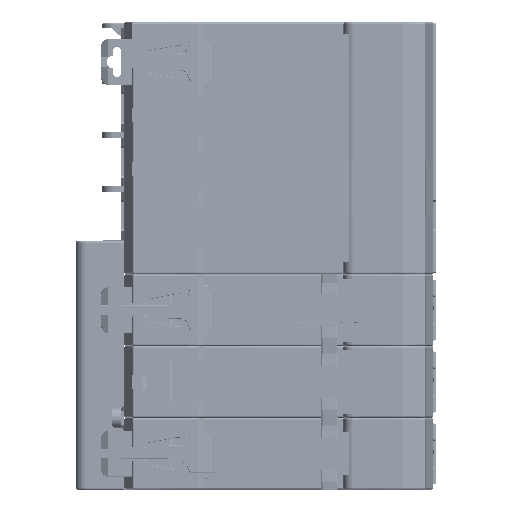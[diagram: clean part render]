
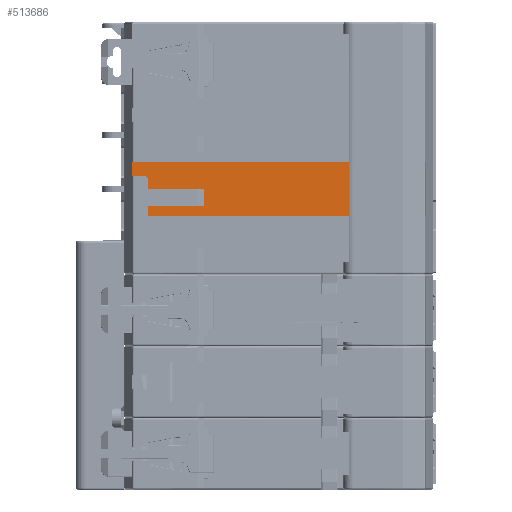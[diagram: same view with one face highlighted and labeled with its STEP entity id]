
A CAD part, front view. The second image highlights one B-rep face of the part: STEP entity #513686.
In plain terms, the highlighted planar face has unit normal (0, -1, 0).
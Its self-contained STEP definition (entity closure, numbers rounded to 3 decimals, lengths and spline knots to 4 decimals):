
#500757=DIRECTION('',(1.,0.,0.));
#500758=VECTOR('',#500757,2.0587);
#500759=CARTESIAN_POINT('',(-1.374,-1.811,
2.6713));
#500760=LINE('',#500759,#500758);
#500834=DIRECTION('',(-1.,0.,0.));
#500835=VECTOR('',#500834,2.1177);
#500836=CARTESIAN_POINT('',(0.6846,-1.811,
3.1988));
#500837=LINE('',#500836,#500835);
#501053=DIRECTION('',(-0.707,0.,
0.707));
#501054=VECTOR('',#501053,0.0557);
#501055=CARTESIAN_POINT('',(-0.7327,-1.811,
2.8346));
#501056=LINE('',#501055,#501054);
#501057=DIRECTION('',(-1.,0.,0.));
#501058=VECTOR('',#501057,0.0984);
#501059=CARTESIAN_POINT('',(-0.772,-1.811,
2.874));
#501060=LINE('',#501059,#501058);
#501061=DIRECTION('',(0.,0.,-1.));
#501062=VECTOR('',#501061,0.0429);
#501063=CARTESIAN_POINT('',(-0.8705,-1.811,
2.874));
#501064=LINE('',#501063,#501062);
#501065=DIRECTION('',(-0.921,0.,
-0.39));
#501066=VECTOR('',#501065,0.0316);
#501067=CARTESIAN_POINT('',(-0.8705,-1.811,
2.8311));
#501068=LINE('',#501067,#501066);
#501069=DIRECTION('',(-0.817,0.,
0.577));
#501070=VECTOR('',#501069,0.1114);
#501071=CARTESIAN_POINT('',(-0.8996,-1.811,
2.8188));
#501072=LINE('',#501071,#501070);
#501073=DIRECTION('',(-1.,0.,0.));
#501074=VECTOR('',#501073,0.0079);
#501075=CARTESIAN_POINT('',(-0.9906,-1.811,
2.8831));
#501076=LINE('',#501075,#501074);
#501077=DIRECTION('',(-0.836,0.,
-0.549));
#501078=VECTOR('',#501077,0.1168);
#501079=CARTESIAN_POINT('',(-0.9984,-1.811,
2.8831));
#501080=LINE('',#501079,#501078);
#501081=DIRECTION('',(-0.818,0.,
0.575));
#501082=VECTOR('',#501081,0.1336);
#501083=CARTESIAN_POINT('',(-1.0961,-1.811,
2.8189));
#501084=LINE('',#501083,#501082);
#501085=DIRECTION('',(0.,0.,1.));
#501086=VECTOR('',#501085,0.3031);
#501087=CARTESIAN_POINT('',(-1.4331,-1.811,
2.8957));
#501088=LINE('',#501087,#501086);
#501089=DIRECTION('',(0.,0.,-1.));
#501090=VECTOR('',#501089,0.5276);
#501091=CARTESIAN_POINT('',(0.6846,-1.811,
3.1988));
#501092=LINE('',#501091,#501090);
#501097=DIRECTION('',(0.,0.,-1.));
#501098=VECTOR('',#501097,0.061);
#501099=CARTESIAN_POINT('',(-0.7327,-1.811,
2.8346));
#501100=LINE('',#501099,#501098);
#501153=DIRECTION('',(-1.,0.,0.));
#501154=VECTOR('',#501153,0.6413);
#501155=CARTESIAN_POINT('',(-0.7327,-1.811,
2.7736));
#501156=LINE('',#501155,#501154);
#501189=DIRECTION('',(0.,0.,-1.));
#501190=VECTOR('',#501189,0.1024);
#501191=CARTESIAN_POINT('',(-1.374,-1.811,
2.7736));
#501192=LINE('',#501191,#501190);
#503934=DIRECTION('',(1.,0.,0.));
#503935=VECTOR('',#503934,0.2277);
#503936=CARTESIAN_POINT('',(-1.4331,-1.811,
2.8957));
#503937=LINE('',#503936,#503935);
#509662=CARTESIAN_POINT('',(-1.374,-1.811,
2.6713));
#509663=VERTEX_POINT('',#509662);
#509664=CARTESIAN_POINT('',(0.6846,-1.811,
2.6713));
#509665=VERTEX_POINT('',#509664);
#509886=CARTESIAN_POINT('',(0.6846,-1.811,
3.1988));
#509887=VERTEX_POINT('',#509886);
#509888=CARTESIAN_POINT('',(-1.4331,-1.811,
3.1988));
#509889=VERTEX_POINT('',#509888);
#511095=CARTESIAN_POINT('',(-1.4331,-1.811,
2.8957));
#511096=VERTEX_POINT('',#511095);
#511149=CARTESIAN_POINT('',(-0.7327,-1.811,
2.7736));
#511150=VERTEX_POINT('',#511149);
#511151=CARTESIAN_POINT('',(-1.374,-1.811,
2.7736));
#511152=VERTEX_POINT('',#511151);
#511167=CARTESIAN_POINT('',(-0.8705,-1.811,
2.874));
#511168=VERTEX_POINT('',#511167);
#511169=CARTESIAN_POINT('',(-0.772,-1.811,
2.874));
#511170=VERTEX_POINT('',#511169);
#511176=CARTESIAN_POINT('',(-0.7327,-1.811,
2.8346));
#511178=VERTEX_POINT('',#511176);
#511179=CARTESIAN_POINT('',(-0.8705,-1.811,
2.8311));
#511180=VERTEX_POINT('',#511179);
#511181=CARTESIAN_POINT('',(-0.8996,-1.811,
2.8188));
#511182=VERTEX_POINT('',#511181);
#511183=CARTESIAN_POINT('',(-0.9906,-1.811,
2.8831));
#511184=VERTEX_POINT('',#511183);
#511185=CARTESIAN_POINT('',(-0.9984,-1.811,
2.8831));
#511186=VERTEX_POINT('',#511185);
#511187=CARTESIAN_POINT('',(-1.0961,-1.811,
2.8189));
#511188=VERTEX_POINT('',#511187);
#511189=CARTESIAN_POINT('',(-1.2054,-1.811,
2.8957));
#511190=VERTEX_POINT('',#511189);
#513650=CARTESIAN_POINT('',(0.6846,-1.811,
3.1024));
#513651=DIRECTION('',(0.,-1.,0.));
#513652=DIRECTION('',(-1.,0.,0.));
#513653=AXIS2_PLACEMENT_3D('',#513650,#513651,#513652);
#513654=PLANE('',#513653);
#513656=ORIENTED_EDGE('',*,*,#513655,.F.);
#513658=ORIENTED_EDGE('',*,*,#513657,.T.);
#513660=ORIENTED_EDGE('',*,*,#513659,.T.);
#513662=ORIENTED_EDGE('',*,*,#513661,.T.);
#513664=ORIENTED_EDGE('',*,*,#513663,.T.);
#513666=ORIENTED_EDGE('',*,*,#513665,.T.);
#513668=ORIENTED_EDGE('',*,*,#513667,.T.);
#513670=ORIENTED_EDGE('',*,*,#513669,.T.);
#513672=ORIENTED_EDGE('',*,*,#513671,.T.);
#513674=ORIENTED_EDGE('',*,*,#513673,.F.);
#513676=ORIENTED_EDGE('',*,*,#513675,.T.);
#513677=ORIENTED_EDGE('',*,*,#513455,.F.);
#513678=ORIENTED_EDGE('',*,*,#513644,.T.);
#513679=ORIENTED_EDGE('',*,*,#513393,.F.);
#513681=ORIENTED_EDGE('',*,*,#513680,.F.);
#513683=ORIENTED_EDGE('',*,*,#513682,.F.);
#513684=EDGE_LOOP('',(#513656,#513658,#513660,#513662,#513664,#513666,#513668,
#513670,#513672,#513674,#513676,#513677,#513678,#513679,#513681,#513683));
#513685=FACE_OUTER_BOUND('',#513684,.F.);
#513686=ADVANCED_FACE('',(#513685),#513654,.T.);
#513393=EDGE_CURVE('',#509663,#509665,#500760,.T.);
#513455=EDGE_CURVE('',#509887,#509889,#500837,.T.);
#513644=EDGE_CURVE('',#509887,#509665,#501092,.T.);
#513655=EDGE_CURVE('',#511178,#511150,#501100,.T.);
#513657=EDGE_CURVE('',#511178,#511170,#501056,.T.);
#513659=EDGE_CURVE('',#511170,#511168,#501060,.T.);
#513661=EDGE_CURVE('',#511168,#511180,#501064,.T.);
#513663=EDGE_CURVE('',#511180,#511182,#501068,.T.);
#513665=EDGE_CURVE('',#511182,#511184,#501072,.T.);
#513667=EDGE_CURVE('',#511184,#511186,#501076,.T.);
#513669=EDGE_CURVE('',#511186,#511188,#501080,.T.);
#513671=EDGE_CURVE('',#511188,#511190,#501084,.T.);
#513673=EDGE_CURVE('',#511096,#511190,#503937,.T.);
#513675=EDGE_CURVE('',#511096,#509889,#501088,.T.);
#513680=EDGE_CURVE('',#511152,#509663,#501192,.T.);
#513682=EDGE_CURVE('',#511150,#511152,#501156,.T.);
